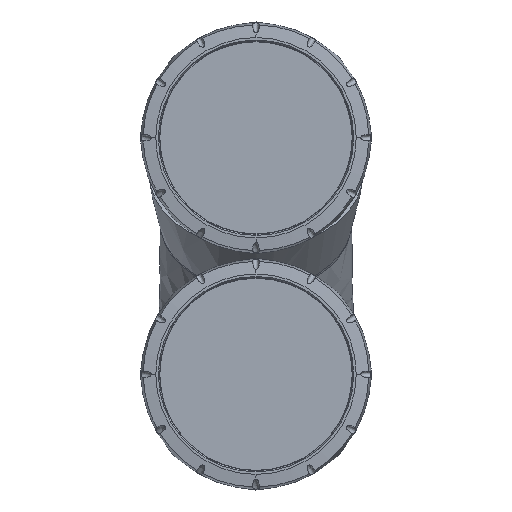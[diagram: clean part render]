
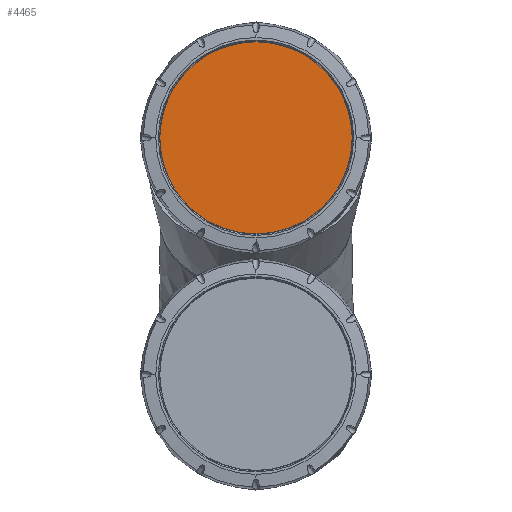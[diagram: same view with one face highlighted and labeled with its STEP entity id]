
A CAD part, top view. The second image highlights one B-rep face of the part: STEP entity #4465.
In plain terms, the highlighted planar face has unit normal (0, 0, 1).
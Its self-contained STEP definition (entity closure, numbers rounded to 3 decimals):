
#36=PLANE('',#4844);
#905=FACE_OUTER_BOUND('',#1158,.T.);
#1158=EDGE_LOOP('',(#3852,#3853,#3854,#3855));
#1393=CIRCLE('',#4837,45.45);
#1394=CIRCLE('',#4839,45.45);
#1395=CIRCLE('',#4841,45.45);
#1396=CIRCLE('',#4843,45.45);
#1830=VERTEX_POINT('',#13731);
#1831=VERTEX_POINT('',#13732);
#1832=VERTEX_POINT('',#13737);
#1833=VERTEX_POINT('',#13741);
#2500=EDGE_CURVE('',#1830,#1831,#1393,.T.);
#2504=EDGE_CURVE('',#1831,#1832,#1394,.T.);
#2505=EDGE_CURVE('',#1833,#1832,#1395,.T.);
#2507=EDGE_CURVE('',#1830,#1833,#1396,.T.);
#3852=ORIENTED_EDGE('',*,*,#2507,.T.);
#3853=ORIENTED_EDGE('',*,*,#2505,.T.);
#3854=ORIENTED_EDGE('',*,*,#2504,.F.);
#3855=ORIENTED_EDGE('',*,*,#2500,.F.);
#4465=ADVANCED_FACE('',(#905),#36,.T.);
#4837=AXIS2_PLACEMENT_3D('',#13733,#5651,#5652);
#4839=AXIS2_PLACEMENT_3D('',#13739,#5658,#5659);
#4841=AXIS2_PLACEMENT_3D('',#13742,#5662,#5663);
#4843=AXIS2_PLACEMENT_3D('',#13745,#5667,#5668);
#4844=AXIS2_PLACEMENT_3D('',#13746,#5669,#5670);
#5651=DIRECTION('center_axis',(0.,0.,-1.));
#5652=DIRECTION('ref_axis',(1.,0.,0.));
#5658=DIRECTION('center_axis',(0.,0.,-1.));
#5659=DIRECTION('ref_axis',(0.,-1.,0.));
#5662=DIRECTION('center_axis',(0.,0.,1.));
#5663=DIRECTION('ref_axis',(0.,1.,0.));
#5667=DIRECTION('center_axis',(0.,0.,1.));
#5668=DIRECTION('ref_axis',(1.,0.,0.));
#5669=DIRECTION('center_axis',(0.,0.,1.));
#5670=DIRECTION('ref_axis',(1.,0.,0.));
#13731=CARTESIAN_POINT('',(45.45,111.7,222.55));
#13732=CARTESIAN_POINT('',(0.,66.25,222.55));
#13733=CARTESIAN_POINT('Origin',(0.,111.7,222.55));
#13737=CARTESIAN_POINT('',(-45.45,111.7,222.55));
#13739=CARTESIAN_POINT('Origin',(0.,111.7,222.55));
#13741=CARTESIAN_POINT('',(0.,157.15,222.55));
#13742=CARTESIAN_POINT('Origin',(0.,111.7,222.55));
#13745=CARTESIAN_POINT('Origin',(0.,111.7,222.55));
#13746=CARTESIAN_POINT('Origin',(-45.45,66.25,222.55));
